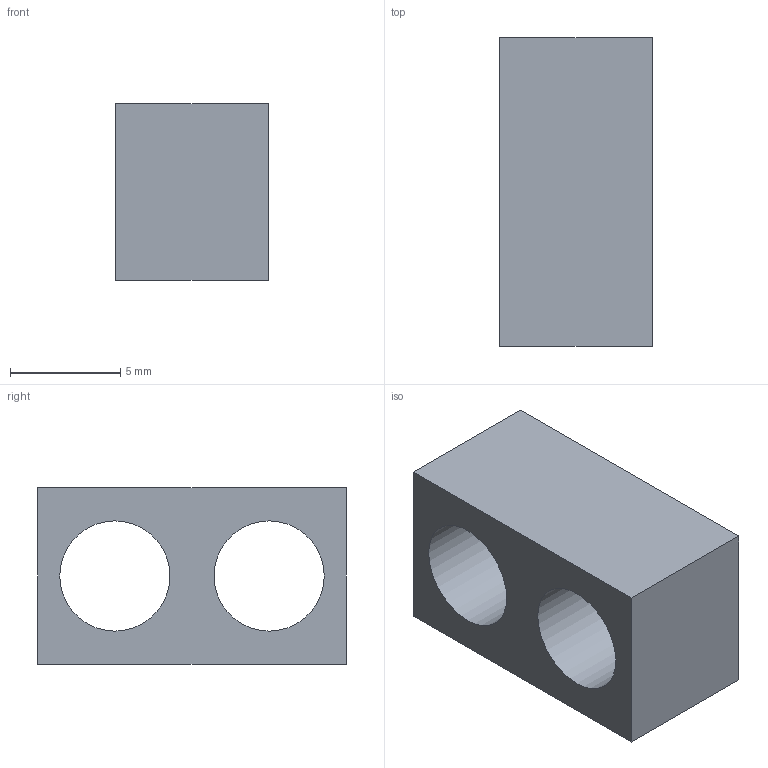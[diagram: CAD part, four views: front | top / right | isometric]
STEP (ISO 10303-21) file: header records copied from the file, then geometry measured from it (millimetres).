
FILE_DESCRIPTION(/* description */ (''),/* implementation_level */ '2;1');
FILE_NAME(/* name */ 'C:\Users\Diego\Downloads\9\Animalitos\SCE.stp',/* time_stamp */ '2019-07-10T16:15:14-04:00',/* author */ ('Diego'),/* organization */ (''),/* preprocessor_version */ 'ST-DEVELOPER v16.5',/* originating_system */ 'Autodesk Inventor 2017',/* authorisation */ '');
FILE_SCHEMA (('AUTOMOTIVE_DESIGN { 1 0 10303 214 3 1 1 }'));
Length unit declared in the file: millimetre
Products named in the file (1): SCE
Bounding box: 6.9 x 14 x 8 mm (x, y, z)
Volume: 501.8 mm3; surface area: 665.8 mm2
Topology: 1 solids, 1 shells, 8 faces, 18 edges, 12 vertices
Faces by surface type: plane 6, cylinder 2
Full cylindrical faces by diameter (mm): 5 x2
Entity records: 248 total; most frequent: DIRECTION 38, CARTESIAN_POINT 37, ORIENTED_EDGE 32, EDGE_CURVE 16, EDGE_LOOP 14, AXIS2_PLACEMENT_3D 13, LINE 12, VECTOR 12
